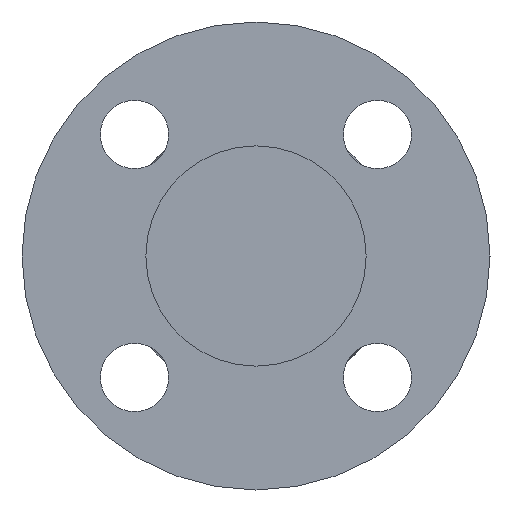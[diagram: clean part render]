
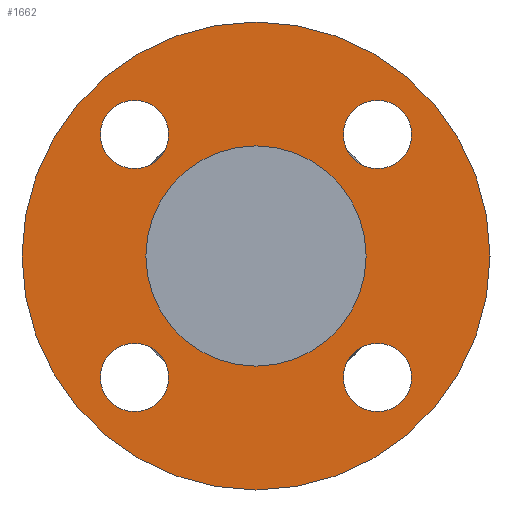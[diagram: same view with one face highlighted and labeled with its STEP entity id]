
A CAD part, left-side view. The second image highlights one B-rep face of the part: STEP entity #1662.
In plain terms, the highlighted planar face has unit normal (-1, 0, 0).
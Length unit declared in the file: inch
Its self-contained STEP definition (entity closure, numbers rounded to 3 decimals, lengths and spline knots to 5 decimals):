
#9 = AXIS2_PLACEMENT_3D ( 'NONE', #1206, #442, #1335 ) ;
#10 = FACE_BOUND ( 'NONE', #389, .T. ) ;
#24 = DIRECTION ( 'NONE',  ( 0., 0., -1. ) ) ;
#38 = EDGE_CURVE ( 'NONE', #1375, #1018, #109, .T. ) ;
#42 = DIRECTION ( 'NONE',  ( 1., 0., 0. ) ) ;
#46 = DIRECTION ( 'NONE',  ( 0., 0., 1. ) ) ;
#58 = CARTESIAN_POINT ( 'NONE',  ( -1.535, 0., 0. ) ) ;
#63 = EDGE_CURVE ( 'NONE', #466, #976, #756, .T. ) ;
#94 = DIRECTION ( 'NONE',  ( -1., 0., 0. ) ) ;
#109 = CIRCLE ( 'NONE', #1163, 2.125 ) ;
#122 = CARTESIAN_POINT ( 'NONE',  ( -1.535, 0., 0. ) ) ;
#196 = DIRECTION ( 'NONE',  ( 0., 0., 1. ) ) ;
#210 = EDGE_CURVE ( 'NONE', #575, #1071, #330, .T. ) ;
#230 = ORIENTED_EDGE ( 'NONE', *, *, #1133, .T. ) ;
#255 = DIRECTION ( 'NONE',  ( 0., 0., 1. ) ) ;
#264 = EDGE_LOOP ( 'NONE', ( #828, #523 ) ) ;
#274 = CARTESIAN_POINT ( 'NONE',  ( -1.535, 0., 2.125 ) ) ;
#285 = CARTESIAN_POINT ( 'NONE',  ( -1.535, -1.10309, -1.41309 ) ) ;
#326 = FACE_OUTER_BOUND ( 'NONE', #672, .T. ) ;
#330 = CIRCLE ( 'NONE', #706, 0.31 ) ;
#333 = CARTESIAN_POINT ( 'NONE',  ( -1.535, 0., -2.125 ) ) ;
#348 = VERTEX_POINT ( 'NONE', #1270 ) ;
#354 = DIRECTION ( 'NONE',  ( 1., 0., 0. ) ) ;
#363 = CARTESIAN_POINT ( 'NONE',  ( -1.535, 1.10309, 1.41309 ) ) ;
#370 = FACE_BOUND ( 'NONE', #970, .T. ) ;
#389 = EDGE_LOOP ( 'NONE', ( #1633, #1059 ) ) ;
#436 = CARTESIAN_POINT ( 'NONE',  ( -1.535, 0., -1. ) ) ;
#442 = DIRECTION ( 'NONE',  ( 1., 0., 0. ) ) ;
#443 = EDGE_CURVE ( 'NONE', #1151, #348, #1327, .T. ) ;
#461 = DIRECTION ( 'NONE',  ( 1., 0., 0. ) ) ;
#466 = VERTEX_POINT ( 'NONE', #895 ) ;
#486 = DIRECTION ( 'NONE',  ( 1., 0., 0. ) ) ;
#490 = CIRCLE ( 'NONE', #508, 0.31 ) ;
#508 = AXIS2_PLACEMENT_3D ( 'NONE', #1244, #354, #1110 ) ;
#511 = ORIENTED_EDGE ( 'NONE', *, *, #1615, .T. ) ;
#523 = ORIENTED_EDGE ( 'NONE', *, *, #526, .T. ) ;
#526 = EDGE_CURVE ( 'NONE', #976, #466, #490, .T. ) ;
#554 = DIRECTION ( 'NONE',  ( 1., 0., 0. ) ) ;
#556 = CARTESIAN_POINT ( 'NONE',  ( -1.535, 1.10309, -0.79309 ) ) ;
#561 = ORIENTED_EDGE ( 'NONE', *, *, #931, .T. ) ;
#574 = EDGE_CURVE ( 'NONE', #1071, #575, #822, .T. ) ;
#575 = VERTEX_POINT ( 'NONE', #1600 ) ;
#579 = DIRECTION ( 'NONE',  ( 0., 0., -1. ) ) ;
#597 = EDGE_CURVE ( 'NONE', #933, #725, #1086, .T. ) ;
#667 = FACE_BOUND ( 'NONE', #1637, .T. ) ;
#672 = EDGE_LOOP ( 'NONE', ( #561, #1502 ) ) ;
#692 = DIRECTION ( 'NONE',  ( 0., 0., -1. ) ) ;
#698 = CARTESIAN_POINT ( 'NONE',  ( -1.535, -1.10309, -1.10309 ) ) ;
#705 = FACE_BOUND ( 'NONE', #1056, .T. ) ;
#706 = AXIS2_PLACEMENT_3D ( 'NONE', #1256, #486, #1380 ) ;
#725 = VERTEX_POINT ( 'NONE', #556 ) ;
#738 = ORIENTED_EDGE ( 'NONE', *, *, #1193, .T. ) ;
#754 = ORIENTED_EDGE ( 'NONE', *, *, #597, .T. ) ;
#756 = CIRCLE ( 'NONE', #1258, 0.31 ) ;
#774 = EDGE_CURVE ( 'NONE', #348, #1151, #1486, .T. ) ;
#807 = DIRECTION ( 'NONE',  ( 1., 0., 0. ) ) ;
#818 = DIRECTION ( 'NONE',  ( 0., 0., -1. ) ) ;
#822 = CIRCLE ( 'NONE', #1016, 0.31 ) ;
#824 = DIRECTION ( 'NONE',  ( -1., 0., 0. ) ) ;
#828 = ORIENTED_EDGE ( 'NONE', *, *, #63, .T. ) ;
#863 = CARTESIAN_POINT ( 'NONE',  ( -1.535, 0., 0. ) ) ;
#869 = AXIS2_PLACEMENT_3D ( 'NONE', #863, #94, #991 ) ;
#895 = CARTESIAN_POINT ( 'NONE',  ( -1.535, 1.10309, 0.79309 ) ) ;
#931 = EDGE_CURVE ( 'NONE', #1018, #1375, #1325, .T. ) ;
#933 = VERTEX_POINT ( 'NONE', #1115 ) ;
#944 = CARTESIAN_POINT ( 'NONE',  ( -1.535, 1.10309, -1.10309 ) ) ;
#952 = AXIS2_PLACEMENT_3D ( 'NONE', #1317, #554, #1444 ) ;
#958 = DIRECTION ( 'NONE',  ( -1., 0., 0. ) ) ;
#969 = CARTESIAN_POINT ( 'NONE',  ( -1.535, -1.10309, 0.79309 ) ) ;
#970 = EDGE_LOOP ( 'NONE', ( #754, #738 ) ) ;
#976 = VERTEX_POINT ( 'NONE', #363 ) ;
#985 = AXIS2_PLACEMENT_3D ( 'NONE', #1594, #824, #46 ) ;
#991 = DIRECTION ( 'NONE',  ( 0., 0., 1. ) ) ;
#1012 = DIRECTION ( 'NONE',  ( -1., 0., 0. ) ) ;
#1016 = AXIS2_PLACEMENT_3D ( 'NONE', #698, #1464, #579 ) ;
#1018 = VERTEX_POINT ( 'NONE', #274 ) ;
#1039 = CIRCLE ( 'NONE', #1170, 0.31 ) ;
#1056 = EDGE_LOOP ( 'NONE', ( #230, #511 ) ) ;
#1059 = ORIENTED_EDGE ( 'NONE', *, *, #210, .T. ) ;
#1071 = VERTEX_POINT ( 'NONE', #285 ) ;
#1072 = CARTESIAN_POINT ( 'NONE',  ( -1.535, 1., 0. ) ) ;
#1074 = VERTEX_POINT ( 'NONE', #1174 ) ;
#1086 = CIRCLE ( 'NONE', #1105, 0.31 ) ;
#1105 = AXIS2_PLACEMENT_3D ( 'NONE', #944, #42, #818 ) ;
#1110 = DIRECTION ( 'NONE',  ( 0., 0., -1. ) ) ;
#1115 = CARTESIAN_POINT ( 'NONE',  ( -1.535, 1.10309, -1.41309 ) ) ;
#1120 = CIRCLE ( 'NONE', #952, 0.31 ) ;
#1133 = EDGE_CURVE ( 'NONE', #1364, #1074, #1039, .T. ) ;
#1151 = VERTEX_POINT ( 'NONE', #436 ) ;
#1163 = AXIS2_PLACEMENT_3D ( 'NONE', #58, #958, #196 ) ;
#1170 = AXIS2_PLACEMENT_3D ( 'NONE', #1575, #807, #24 ) ;
#1174 = CARTESIAN_POINT ( 'NONE',  ( -1.535, -1.10309, 1.41309 ) ) ;
#1193 = EDGE_CURVE ( 'NONE', #725, #933, #1268, .T. ) ;
#1206 = CARTESIAN_POINT ( 'NONE',  ( -1.535, 1.10309, -1.10309 ) ) ;
#1228 = CARTESIAN_POINT ( 'NONE',  ( -1.535, 1.10309, 1.10309 ) ) ;
#1244 = CARTESIAN_POINT ( 'NONE',  ( -1.535, 1.10309, 1.10309 ) ) ;
#1256 = CARTESIAN_POINT ( 'NONE',  ( -1.535, -1.10309, -1.10309 ) ) ;
#1258 = AXIS2_PLACEMENT_3D ( 'NONE', #1228, #461, #1353 ) ;
#1268 = CIRCLE ( 'NONE', #9, 0.31 ) ;
#1270 = CARTESIAN_POINT ( 'NONE',  ( -1.535, 0., 1. ) ) ;
#1317 = CARTESIAN_POINT ( 'NONE',  ( -1.535, -1.10309, 1.10309 ) ) ;
#1325 = CIRCLE ( 'NONE', #869, 2.125 ) ;
#1327 = CIRCLE ( 'NONE', #1481, 1. ) ;
#1331 = PLANE ( 'NONE',  #1557 ) ;
#1335 = DIRECTION ( 'NONE',  ( 0., 0., -1. ) ) ;
#1347 = FACE_BOUND ( 'NONE', #264, .T. ) ;
#1353 = DIRECTION ( 'NONE',  ( 0., 0., -1. ) ) ;
#1364 = VERTEX_POINT ( 'NONE', #969 ) ;
#1375 = VERTEX_POINT ( 'NONE', #333 ) ;
#1380 = DIRECTION ( 'NONE',  ( 0., 0., -1. ) ) ;
#1444 = DIRECTION ( 'NONE',  ( 0., 0., -1. ) ) ;
#1456 = DIRECTION ( 'NONE',  ( 1., 0., 0. ) ) ;
#1464 = DIRECTION ( 'NONE',  ( 1., 0., 0. ) ) ;
#1481 = AXIS2_PLACEMENT_3D ( 'NONE', #122, #1012, #255 ) ;
#1486 = CIRCLE ( 'NONE', #985, 1. ) ;
#1502 = ORIENTED_EDGE ( 'NONE', *, *, #38, .T. ) ;
#1522 = ORIENTED_EDGE ( 'NONE', *, *, #774, .F. ) ;
#1557 = AXIS2_PLACEMENT_3D ( 'NONE', #1072, #1456, #692 ) ;
#1575 = CARTESIAN_POINT ( 'NONE',  ( -1.535, -1.10309, 1.10309 ) ) ;
#1594 = CARTESIAN_POINT ( 'NONE',  ( -1.535, 0., 0. ) ) ;
#1600 = CARTESIAN_POINT ( 'NONE',  ( -1.535, -1.10309, -0.79309 ) ) ;
#1615 = EDGE_CURVE ( 'NONE', #1074, #1364, #1120, .T. ) ;
#1632 = ORIENTED_EDGE ( 'NONE', *, *, #443, .F. ) ;
#1633 = ORIENTED_EDGE ( 'NONE', *, *, #574, .T. ) ;
#1637 = EDGE_LOOP ( 'NONE', ( #1522, #1632 ) ) ;
#1662 = ADVANCED_FACE ( 'NONE', ( #10, #705, #1347, #370, #667, #326 ), #1331, .F. ) ;
